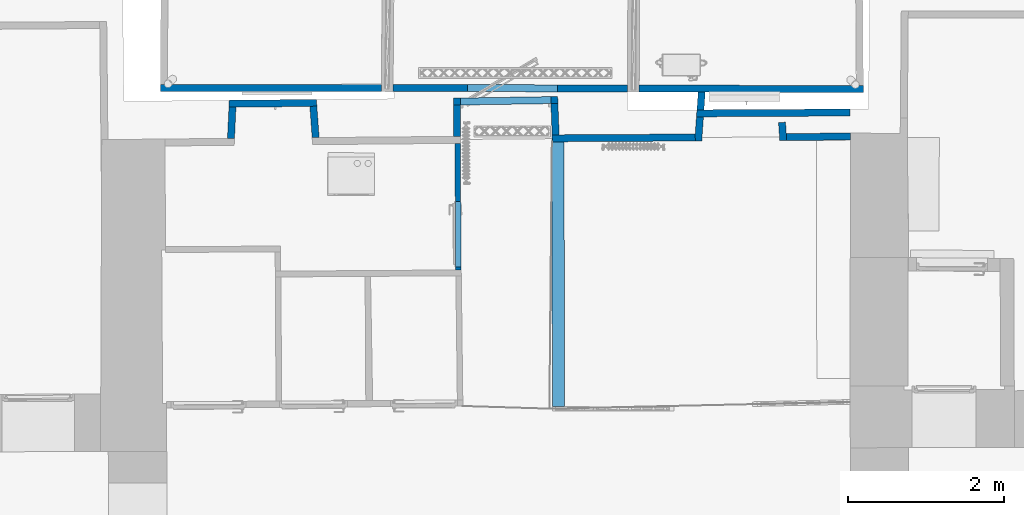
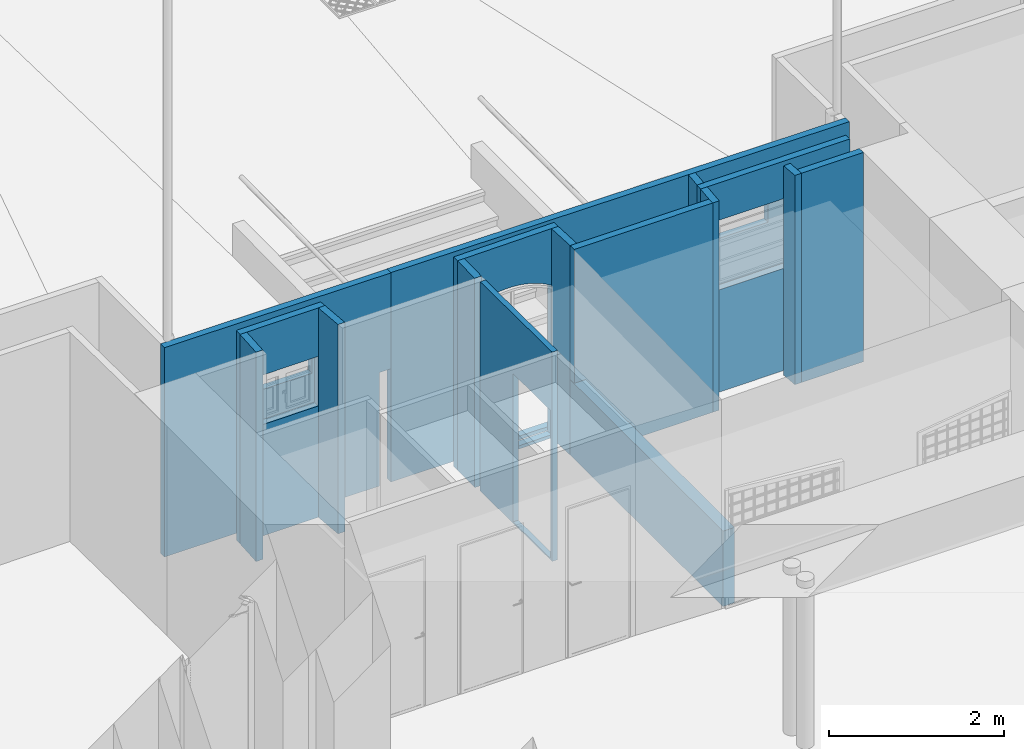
# One storey, part 27 of 133: 16 walls, 7 openings.
"""IFC2X3 building model written with IfcOpenShell, lengths in centimetres."""

from ifc_helpers import new_model, entity, si_unit, converted_unit, point, direction, frame, frame_2d, origin, origin_with_axes, place, context, subcontext, project, spatial, polyline, circle_curve, trimmed, segment, composite_curve, outline, extrude, clip, bounded_halfspace, shape, material, layer, layer_set, layer_usage, type_object, element, save


model = new_model("IFC2X3")

# Units and contexts
model_context = context("Model", 3, precision=0.0001, world=origin(), true_north=direction((0.225632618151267, 0.974212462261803, 0.0)))
body_context = subcontext(model_context, "Body", "Model", "MODEL_VIEW")
footprint_context = subcontext(model_context, "FootPrint", "Model", "MODEL_VIEW")
profile_context = subcontext(model_context, "Profile", "Model", "MODEL_VIEW")
ifc_project = project(units=[si_unit("LENGTHUNIT", "METRE", prefix="CENTI"), si_unit("AREAUNIT", "SQUARE_METRE", prefix="CENTI"), si_unit("VOLUMEUNIT", "CUBIC_METRE", prefix="CENTI"), converted_unit("PLANEANGLEUNIT", "DEGREE", entity("IfcRatioMeasure", 0.0174532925), si_unit("PLANEANGLEUNIT", "RADIAN"), dimensions=[0, 0, 0, 0, 0, 0, 0])], contexts=[model_context])

# Site, building, storey
site_placement = place(None, origin_with_axes())
site = spatial("IfcSite", under=ifc_project, at=site_placement, Name="Default Site", CompositionType="ELEMENT")
building_placement = place(site_placement, origin_with_axes())
building = spatial("IfcBuilding", under=site, at=building_placement, Name="Default Building", CompositionType="ELEMENT")
storey_placement = place(building_placement, frame((0.0, 0.0, -291.400371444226), z_axis=(0.0, 0.0, 1.0), x_axis=(1.0, 0.0, 0.0)))
storey = spatial("IfcBuildingStorey", under=building, at=storey_placement, Name="Rez-de-Jardin", CompositionType="ELEMENT", Elevation=-291.400371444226)

# Walls
ifc_material = material(Name="<aucun>")
ifc_layer_1 = layer(ifc_material, 9.0)
ifc_layer_set_1 = layer_set([ifc_layer_1], Name="default")
ifc_layer_usage_1 = layer_usage(ifc_layer_set_1, "AXIS2", "POSITIVE", -4.5)
wall_type_1 = type_object("IfcWallType", Name="default 90", PredefinedType="NOTDEFINED", material=ifc_layer_set_1)
wall_1_placement = place(storey_placement, frame((-151.626357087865, 550.284720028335, -1.94511073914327e-11), z_axis=(0.0, 0.0, 1.0), x_axis=(0.999982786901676, 0.00586735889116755, 0.0)))
element("IfcWallStandardCase", 1, at=wall_1_placement, inside=storey, type_object=wall_type_1, material=ifc_layer_usage_1, Name="Enveloppe 578381", context=body_context, shape_type="Clipping", body=[
    clip(extrude(outline(polyline([(-2.24265050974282e-12, 4.4999999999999), (0.292793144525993, -4.4999999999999), (183.440946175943, -4.50000000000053), (183.440946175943, 4.49999999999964), (-2.24265050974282e-12, 4.4999999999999)])), frame((0.0, 0.0, 8.88178419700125e-14), z_axis=(0.0, 0.0, 1.0), x_axis=(1.0, 0.0, 0.0)), (0.0, 0.0, 1.0), 291.413221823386), bounded_halfspace(frame((-2.24265050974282e-12, 4.4999999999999, 105.0), z_axis=(0.0, 0.0, 1.0), x_axis=(1.0, -3.41740524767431e-16, 0.0)), True, frame((-2.24265050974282e-12, 4.4999999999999, 105.0), z_axis=(0.0, 0.0, 1.0), x_axis=(1.0, 0.0, 0.0)), polyline([(2.22044604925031e-14, 0.0), (15.4076524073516, 0.0), (15.3647608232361, -8.99999999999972), (0.292793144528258, -8.99999999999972), (2.22044604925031e-14, 0.0)]))),
])
ifc_layer_usage_2 = layer_usage(ifc_layer_set_1, "AXIS2", "POSITIVE", -4.5)
wall_2_placement = place(storey_placement, frame((144.546257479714, 547.533862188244, -1.94511073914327e-11), z_axis=(0.0, 0.0, 1.0), x_axis=(-0.0634999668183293, 0.997981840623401, 0.0)))
element("IfcWallStandardCase", 2, at=wall_2_placement, inside=storey, type_object=wall_type_1, material=ifc_layer_usage_2, Name="Enveloppe 578498", context=body_context, shape_type="SweptSolid", body=[
    extrude(outline(polyline([(23.2636778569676, 4.49999999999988), (0.248369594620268, 4.50000000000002), (-0.271284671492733, -4.50000000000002), (23.2636778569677, -4.5000000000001), (23.2636778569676, 4.49999999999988)])), frame((0.0, 0.0, 1.33226762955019e-13), z_axis=(0.0, 0.0, 1.0), x_axis=(1.0, 0.0, 0.0)), (0.0, 0.0, 1.0), 291.413221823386),
])
ifc_layer_usage_3 = layer_usage(ifc_layer_set_1, "AXIS2", "POSITIVE", -4.5)
wall_3_placement = place(storey_placement, frame((38.1848745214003, 582.330023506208, -1.94511073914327e-11), z_axis=(0.0, 0.0, 1.0), x_axis=(0.0711630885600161, 0.997464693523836, 0.0)))
element("IfcWallStandardCase", 3, at=wall_3_placement, inside=storey, type_object=wall_type_1, material=ifc_layer_usage_3, Name="Enveloppe 578031", context=body_context, shape_type="SweptSolid", body=[
    extrude(outline(polyline([(4.16744102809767, 4.50000000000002), (4.85909695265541, -4.49999999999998), (27.4907387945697, -4.49999999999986), (26.8707012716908, 4.50000000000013), (4.16744102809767, 4.50000000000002)])), frame((0.0, 0.0, 8.88178419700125e-14), z_axis=(0.0, 0.0, 1.0), x_axis=(1.0, 0.0, 0.0)), (0.0, 0.0, 1.0), 291.413221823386),
])
ifc_layer_usage_4 = layer_usage(ifc_layer_set_1, "AXIS2", "POSITIVE", -4.5)
wall_4_placement = place(storey_placement, frame((140.027481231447, 551.995987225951, -1.94511073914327e-11), z_axis=(0.0, 0.0, 1.0), x_axis=(0.999982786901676, 0.00586735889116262, 0.0)))
element("IfcWallStandardCase", 4, at=wall_4_placement, inside=storey, type_object=wall_type_1, material=ifc_layer_usage_4, Name="Enveloppe 578761", context=body_context, shape_type="SweptSolid", body=[
    extrude(outline(polyline([(8.48101864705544, 4.4999999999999), (9.00067291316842, -4.50000000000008), (90.5975360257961, -4.49999999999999), (90.6597912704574, 4.49909174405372), (8.48101864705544, 4.4999999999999)])), frame((0.0, 0.0, 8.88178419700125e-14), z_axis=(0.0, 0.0, 1.0), x_axis=(1.0, 0.0, 0.0)), (0.0, 0.0, 1.0), 291.413221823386),
])
ifc_layer_usage_5 = layer_usage(ifc_layer_set_1, "AXIS2", "POSITIVE", -4.5)
wall_5_placement = place(storey_placement, frame((-147.156075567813, 554.957348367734, -1.94511073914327e-11), z_axis=(0.0, 0.0, 1.0), x_axis=(-0.0383790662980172, 0.999263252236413, 0.0)))
element("IfcWallStandardCase", 5, at=wall_5_placement, inside=storey, type_object=wall_type_1, material=ifc_layer_usage_5, Name="Enveloppe 581797", context=body_context, shape_type="Clipping", body=[
    clip(extrude(outline(polyline([(40.0143737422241, 4.49999999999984), (8.88178419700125e-14, 4.49999999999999), (-0.292793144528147, -4.50000000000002), (39.8111543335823, -4.50000000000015), (40.0143737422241, 4.49999999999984)])), frame((0.0, 0.0, 1.33226762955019e-13), z_axis=(0.0, 0.0, 1.0), x_axis=(1.0, 0.0, 0.0)), (0.0, 0.0, 1.0), 291.413221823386), bounded_halfspace(frame((8.88178419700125e-14, 4.50000000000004, 105.0), z_axis=(0.0, 0.0, 1.0), x_axis=(-1.87350135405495e-16, -1.0, 0.0)), True, frame((8.88178419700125e-14, 4.50000000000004, 105.0), z_axis=(0.0, 0.0, 1.0), x_axis=(1.0, 0.0, 0.0)), polyline([(-0.292793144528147, -9.00000000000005), (8.88178419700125e-14, 2.22044604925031e-14), (-8.88178419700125e-14, -9.00000000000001), (-0.292793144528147, -9.00000000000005)]))),
])
ifc_layer_usage_6 = layer_usage(ifc_layer_set_1, "AXIS2", "POSITIVE", -4.5)
wall_6_placement = place(storey_placement, frame((-454.111945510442, 542.507668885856, -1.94511073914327e-11), z_axis=(0.0, 0.0, 1.0), x_axis=(-0.0728153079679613, 0.997345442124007, 0.0)))
element("IfcWallStandardCase", 6, at=wall_6_placement, inside=storey, type_object=wall_type_1, material=ifc_layer_usage_6, Name="Enveloppe 579507", context=body_context, shape_type="SweptSolid", body=[
    extrude(outline(polyline([(49.0456146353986, 4.49999999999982), (9.01456586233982, 4.4999999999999), (8.43886085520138, -4.49999999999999), (49.0456146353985, -4.50000000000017), (49.0456146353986, 4.49999999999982)])), frame((0.0, 0.0, 1.77635683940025e-13), z_axis=(0.0, 0.0, 1.0), x_axis=(1.0, 0.0, 0.0)), (0.0, 0.0, 1.0), 291.413221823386),
])
ifc_layer_usage_7 = layer_usage(ifc_layer_set_1, "AXIS2", "POSITIVE", -4.5)
wall_7_placement = place(storey_placement, frame((35.680958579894, 547.233630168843, -1.94511073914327e-11), z_axis=(0.0, 0.0, 1.0), x_axis=(0.0711630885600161, 0.997464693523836, 0.0)))
element("IfcWallStandardCase", 7, at=wall_7_placement, inside=storey, type_object=wall_type_1, material=ifc_layer_usage_7, Name="Enveloppe 579019", context=body_context, shape_type="SweptSolid", body=[
    extrude(outline(polyline([(8.32820692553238, 4.50000000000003), (-0.64506293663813, 3.80687087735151), (-0.00340897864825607, -4.5), (31.018158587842, -4.49999999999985), (30.326502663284, 4.50000000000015), (8.32820692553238, 4.50000000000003)])), frame((0.0, 0.0, 8.88178419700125e-14), z_axis=(0.0, 0.0, 1.0), x_axis=(1.0, 0.0, 0.0)), (0.0, 0.0, 1.0), 291.413221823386),
])

# Wall, opening
ifc_layer_usage_8 = layer_usage(ifc_layer_set_1, "AXIS2", "POSITIVE", -4.5)
wall_8_placement = place(storey_placement, frame((-561.157868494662, 594.677740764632, -1.94511073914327e-11), z_axis=(0.0, 0.0, 1.0), x_axis=(0.99995701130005, 0.00927230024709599, 0.0)))
wall_8 = element("IfcWallStandardCase", 8, at=wall_8_placement, inside=storey, type_object=wall_type_1, material=ifc_layer_usage_8, Name="Enveloppe 579508", context=body_context, shape_type="SweptSolid", body=[
    extrude(outline(polyline([(-4.76066961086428, -4.50000000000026), (98.9491253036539, -4.49999999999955), (107.930924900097, -3.92791957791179), (107.394122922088, 4.50000000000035), (-4.25360330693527, 4.49999999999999), (-4.76066961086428, -4.50000000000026)])), frame((0.0, 0.0, 1.33226762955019e-13), z_axis=(0.0, 0.0, 1.0), x_axis=(1.0, 0.0, 0.0)), (0.0, 0.0, 1.0), 291.413221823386),
])
opening_1_placement = place(wall_8_placement, frame((5.01066961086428, 1.13686837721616e-13, 155.000000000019), z_axis=(0.0, 0.0, 1.0), x_axis=(-1.0, -4.15292800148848e-15, 0.0)))
cartesian_point_1 = entity("IfcCartesianPoint", [0.0, 0.0, 69.0])
cartesian_point_2 = entity("IfcCartesianPoint", [-94.0555910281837, -4.49999999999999])
element("IfcOpeningElement", 9, at=opening_1_placement, cuts=wall_8, Name="4294966466_11", ObjectType="Opening", shapes=[
    shape(body_context, "Body", "SweptSolid", [extrude(outline(polyline([(8.88178419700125e-14, 69.0), (8.88178419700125e-14, 0.0), (94.0555910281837, 0.0), (94.0555910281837, 69.0), (8.88178419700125e-14, 69.0)])), frame((0.0, -14.5, 0.0), z_axis=(0.0, 1.0, 0.0), x_axis=(-1.0, 0.0, 0.0)), (0.0, 0.0, 1.0), 29.0)]),
    shape(profile_context, "Profile", "GeometricCurveSet", [entity("IfcGeometricCurveSet", [entity("IfcPolyline", [cartesian_point_1, entity("IfcCartesianPoint", [0.0, 0.0, 0.0]), entity("IfcCartesianPoint", [-94.0555910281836, 0.0, 0.0]), entity("IfcCartesianPoint", [-94.0555910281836, 0.0, 69.0]), cartesian_point_1])])]),
    shape(footprint_context, "FootPrint", "GeometricCurveSet", [entity("IfcGeometricCurveSet", [entity("IfcPolyline", [cartesian_point_2, entity("IfcCartesianPoint", [-8.88178419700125e-14, -4.49999999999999]), entity("IfcCartesianPoint", [0.0, 4.49999999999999]), entity("IfcCartesianPoint", [-94.0555910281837, 4.49999999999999]), cartesian_point_2])])]),
])

# Walls
ifc_layer_usage_9 = layer_usage(ifc_layer_set_1, "AXIS2", "POSITIVE", -4.5)
wall_9_placement = place(storey_placement, frame((-273.817092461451, 552.792491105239, -1.94511073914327e-11), z_axis=(0.0, 0.0, 1.0), x_axis=(0.00967485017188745, 0.999953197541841, 0.0)))
element("IfcWallStandardCase", 10, at=wall_9_placement, inside=storey, type_object=wall_type_1, material=ifc_layer_usage_9, Name="Enveloppe 581669", context=body_context, shape_type="SweptSolid", body=[
    extrude(outline(polyline([(-0.0369662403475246, 4.49999999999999), (0.131124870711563, -4.49999999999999), (40.1921837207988, -4.50000000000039), (39.9627474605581, 4.49999999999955), (-0.0369662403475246, 4.49999999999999)])), frame((0.0, 0.0, 4.44089209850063e-14), z_axis=(0.0, 0.0, 1.0), x_axis=(1.0, 0.0, 0.0)), (0.0, 0.0, 1.0), 291.413221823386),
])
ifc_layer_usage_10 = layer_usage(ifc_layer_set_1, "AXIS2", "POSITIVE", -4.5)
wall_10_placement = place(storey_placement, frame((-563.660351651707, 541.482566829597, -1.94511073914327e-11), z_axis=(0.0, 0.0, 1.0), x_axis=(0.0469914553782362, 0.998895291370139, 0.0)))
element("IfcWallStandardCase", 11, at=wall_10_placement, inside=storey, type_object=wall_type_1, material=ifc_layer_usage_10, Name="Enveloppe 579958", context=body_context, shape_type="SweptSolid", body=[
    extrude(outline(polyline([(8.50953149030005, 4.49999999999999), (9.01413470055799, -4.49999999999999), (49.0004007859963, -4.49999999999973), (48.4933344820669, 4.50000000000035), (8.50953149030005, 4.49999999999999)])), frame((0.0, 0.0, 8.88178419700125e-14), z_axis=(0.0, 0.0, 1.0), x_axis=(1.0, 0.0, 0.0)), (0.0, 0.0, 1.0), 291.413221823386),
])

# Wall, opening
ifc_layer_usage_11 = layer_usage(ifc_layer_set_1, "AXIS2", "POSITIVE", -4.5)
wall_11_placement = place(storey_placement, frame((-277.102646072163, 597.310555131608, -1.94511073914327e-11), z_axis=(0.0, 0.0, 1.0), x_axis=(0.999874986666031, 0.015811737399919, 0.0)))
wall_11 = element("IfcWallStandardCase", 12, at=wall_11_placement, inside=storey, type_object=wall_type_1, material=ifc_layer_usage_11, Name="Enveloppe 76446", context=body_context, shape_type="SweptSolid", body=[
    extrude(outline(polyline([(-0.898867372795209, -4.49999999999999), (132.860796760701, -4.49999999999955), (132.65757735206, 4.50000000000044), (-0.669431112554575, 4.50000000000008), (-0.898867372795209, -4.49999999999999)])), frame((0.0, 0.0, 8.88178419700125e-14), z_axis=(0.0, 0.0, 1.0), x_axis=(1.0, 0.0, 0.0)), (0.0, 0.0, 1.0), 291.413221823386),
])
opening_2_placement = place(wall_11_placement, frame((8.10405665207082, -1.13686837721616e-13, 4.50000000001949), z_axis=(0.0, 0.0, 1.0), x_axis=(1.0, 2.93515212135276e-15, 0.0)))
cartesian_point_3 = entity("IfcCartesianPoint", [0.0, 0.0, 208.0])
cartesian_point_4 = entity("IfcCartesianPoint", [115.754446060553, 8.88178419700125e-14, 208.0])
cartesian_point_5 = entity("IfcCartesianPoint", [115.754446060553, 4.50000000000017])
element("IfcOpeningElement", 13, at=opening_2_placement, cuts=wall_11, Name="4294966320_12", ObjectType="Opening", shapes=[
    shape(body_context, "Body", "SweptSolid", [extrude(outline(composite_curve([segment(polyline([(-4.44089209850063e-14, 208.0), (-4.44089209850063e-14, 0.0), (115.754446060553, 0.0), (115.754446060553, 208.0)]), True, "CONTINUOUS"), segment(trimmed(circle_curve(frame_2d((57.8772230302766, 116.191417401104), x_axis=(1.0, 0.0)), 108.52920705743), [point((115.754446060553, 208.0))], [point((-4.44089209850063e-14, 208.0))], True, "CARTESIAN"), True, "CONTINUOUS")], self_intersect=False)), frame((0.0, 14.5, 0.0), z_axis=(0.0, -1.0, 0.0), x_axis=(1.0, 0.0, 0.0)), (0.0, 0.0, 1.0), 29.0)]),
    shape(profile_context, "Profile", "GeometricCurveSet", [entity("IfcGeometricCurveSet", [entity("IfcCompositeCurve", [entity("IfcCompositeCurveSegment", "CONTINUOUS", True, entity("IfcPolyline", [cartesian_point_3, entity("IfcCartesianPoint", [0.0, 0.0, 0.0]), entity("IfcCartesianPoint", [115.754446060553, 8.88178419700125e-14, 0.0]), cartesian_point_4])), entity("IfcCompositeCurveSegment", "CONTINUOUS", True, entity("IfcTrimmedCurve", entity("IfcCircle", entity("IfcAxis2Placement3D", entity("IfcCartesianPoint", [57.8772230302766, 8.88178419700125e-14, 116.191417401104]), entity("IfcDirection", [7.67295296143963e-16, -1.0, 2.65593675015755e-15]), entity("IfcDirection", [-1.0, -7.67295296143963e-16, 0.0])), 108.52920705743), [cartesian_point_4], [cartesian_point_3], True, "CARTESIAN"))], False)])]),
    shape(footprint_context, "FootPrint", "GeometricCurveSet", [entity("IfcGeometricCurveSet", [entity("IfcPolyline", [cartesian_point_5, entity("IfcCartesianPoint", [-4.44089209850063e-14, 4.49999999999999]), entity("IfcCartesianPoint", [-4.44089209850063e-14, -4.49999999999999]), entity("IfcCartesianPoint", [115.754446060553, -4.4999999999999]), cartesian_point_5])])]),
])

ifc_layer_usage_12 = layer_usage(ifc_layer_set_1, "AXIS2", "POSITIVE", -4.5)
wall_12_placement = place(storey_placement, frame((38.1848745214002, 582.330023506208, -1.94511073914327e-11), z_axis=(0.0, 0.0, 1.0), x_axis=(0.999985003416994, 0.00547658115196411, 0.0)))
wall_12 = element("IfcWallStandardCase", 14, at=wall_12_placement, inside=storey, type_object=wall_type_1, material=ifc_layer_usage_12, Name="Enveloppe 55077", context=body_context, shape_type="SweptSolid", body=[
    extrude(outline(polyline([(-4.85909695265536, -4.50000000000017), (192.283167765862, -4.50000000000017), (192.283167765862, 4.4999999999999), (-4.16744102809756, 4.50000000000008), (-4.85909695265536, -4.50000000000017)])), frame((0.0, 0.0, 1.33226762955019e-13), z_axis=(0.0, 0.0, 1.0), x_axis=(1.0, 0.0, 0.0)), (0.0, 0.0, 1.0), 291.413221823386),
])
opening_3_placement = place(wall_12_placement, frame((10.8625685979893, 1.13686837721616e-13, 142.337174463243), z_axis=(0.0, 0.0, 1.0), x_axis=(-1.0, 3.82506526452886e-16, 0.0)))
cartesian_point_6 = entity("IfcCartesianPoint", [1.11022302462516e-14, 0.0, 97.0])
cartesian_point_7 = entity("IfcCartesianPoint", [-111.462126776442, -4.49999999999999])
element("IfcOpeningElement", 15, at=opening_3_placement, cuts=wall_12, Name="4294966477_11", ObjectType="Opening", shapes=[
    shape(body_context, "Body", "SweptSolid", [extrude(outline(polyline([(-1.11022302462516e-14, 97.0), (-1.11022302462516e-14, 2.22044604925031e-14), (111.462126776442, 2.22044604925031e-14), (111.462126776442, 97.0), (-1.11022302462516e-14, 97.0)])), frame((0.0, -14.5, 0.0), z_axis=(0.0, 1.0, 0.0), x_axis=(-1.0, 0.0, 0.0)), (0.0, 0.0, 1.0), 29.0)]),
    shape(profile_context, "Profile", "GeometricCurveSet", [entity("IfcGeometricCurveSet", [entity("IfcPolyline", [cartesian_point_6, entity("IfcCartesianPoint", [1.11022302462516e-14, 0.0, 2.22044604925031e-14]), entity("IfcCartesianPoint", [-111.462126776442, 8.88178419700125e-14, 2.22044604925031e-14]), entity("IfcCartesianPoint", [-111.462126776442, 8.88178419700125e-14, 97.0]), cartesian_point_6])])]),
    shape(footprint_context, "FootPrint", "GeometricCurveSet", [entity("IfcGeometricCurveSet", [entity("IfcPolyline", [cartesian_point_7, entity("IfcCartesianPoint", [1.11022302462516e-14, -4.49999999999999]), entity("IfcCartesianPoint", [0.0, 4.49999999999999]), entity("IfcCartesianPoint", [-111.462126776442, 4.50000000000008]), cartesian_point_7])])]),
])

ifc_layer_2 = layer(ifc_material, 7.0)
ifc_layer_set_2 = layer_set([ifc_layer_2], Name="default")
ifc_layer_usage_13 = layer_usage(ifc_layer_set_2, "AXIS2", "POSITIVE", -3.5)
wall_type_2 = type_object("IfcWallType", Name="default 70", PredefinedType="NOTDEFINED", material=ifc_layer_set_2)
wall_13_placement = place(storey_placement, frame((-271.692132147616, 381.584849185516, -1.94511073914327e-11), z_axis=(0.0, 0.0, 1.0), x_axis=(-0.00656149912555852, 0.99997847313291, 0.0)))
wall_13 = element("IfcWallStandardCase", 16, at=wall_13_placement, inside=storey, type_object=wall_type_2, material=ifc_layer_usage_13, Name="Enveloppe 71801", context=body_context, shape_type="SweptSolid", body=[
    extrude(outline(polyline([(162.258852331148, 3.50000000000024), (8.74019915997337e-05, 3.50000000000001), (8.74019915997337e-05, -3.50000000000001), (162.275918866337, -3.49999999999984), (162.258852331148, 3.50000000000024)])), frame((0.0, 0.0, 8.88178419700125e-14), z_axis=(0.0, 0.0, 1.0), x_axis=(1.0, 0.0, 0.0)), (0.0, 0.0, 1.0), 291.413221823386),
])
opening_4_placement = place(wall_13_placement, frame((4.02307569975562, 0.0, 2.00000000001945), z_axis=(0.0, 0.0, 1.0), x_axis=(1.0, 1.08593689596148e-15, 0.0)))
cartesian_point_8 = entity("IfcCartesianPoint", [0.0, 0.0, 206.0])
cartesian_point_9 = entity("IfcCartesianPoint", [84.0000000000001, 3.50000000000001])
element("IfcOpeningElement", 17, at=opening_4_placement, cuts=wall_13, Name="4294966319_11", ObjectType="Opening", shapes=[
    shape(body_context, "Body", "SweptSolid", [extrude(outline(polyline([(0.0, 206.0), (0.0, 4.44089209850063e-14), (84.0000000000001, 4.44089209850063e-14), (84.0000000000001, 206.0), (0.0, 206.0)])), frame((0.0, 13.5, 0.0), z_axis=(0.0, -1.0, 0.0), x_axis=(1.0, 0.0, 0.0)), (0.0, 0.0, 1.0), 27.0)]),
    shape(profile_context, "Profile", "GeometricCurveSet", [entity("IfcGeometricCurveSet", [entity("IfcPolyline", [cartesian_point_8, entity("IfcCartesianPoint", [0.0, 0.0, 4.44089209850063e-14]), entity("IfcCartesianPoint", [84.0, 0.0, 4.44089209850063e-14]), entity("IfcCartesianPoint", [84.0, 0.0, 206.0]), cartesian_point_8])])]),
    shape(footprint_context, "FootPrint", "GeometricCurveSet", [entity("IfcGeometricCurveSet", [entity("IfcPolyline", [cartesian_point_9, entity("IfcCartesianPoint", [0.0, 3.50000000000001]), entity("IfcCartesianPoint", [0.0, -3.49999999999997]), entity("IfcCartesianPoint", [84.0, -3.50000000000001]), cartesian_point_9])])]),
])

# Wall
ifc_layer_3 = layer(ifc_material, 15.5)
ifc_layer_set_3 = layer_set([ifc_layer_3], Name="default")
ifc_layer_usage_14 = layer_usage(ifc_layer_set_3, "AXIS2", "POSITIVE", -7.75)
wall_type_3 = type_object("IfcWallType", Name="default 155", PredefinedType="NOTDEFINED", material=ifc_layer_set_3)
wall_14_placement = place(storey_placement, frame((-143.611740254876, 206.65109709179, -1.94511073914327e-11), z_axis=(0.0, 0.0, 1.0), x_axis=(-0.00110169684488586, 0.999999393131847, 0.0)))
element("IfcWallStandardCase", 18, at=wall_14_placement, inside=storey, type_object=wall_type_3, material=ifc_layer_usage_14, Name="Enveloppe 67656", context=body_context, shape_type="SweptSolid", body=[
    extrude(outline(polyline([(339.214812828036, 7.74927223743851), (4.44089209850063e-14, 7.74999999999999), (8.88178419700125e-14, -7.75000000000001), (348.21562087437, -7.75000000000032), (348.185106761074, -1.3471817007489), (348.47769639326, -1.33626691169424), (348.142192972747, 7.65747743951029), (339.214812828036, 7.74927223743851)])), frame((0.0, 0.0, 4.44089209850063e-14), z_axis=(0.0, 0.0, 1.0), x_axis=(1.0, 0.0, 0.0)), (0.0, 0.0, 1.0), 105.0),
])

# Wall, opening
ifc_layer_usage_15 = layer_usage(ifc_layer_set_1, "AXIS2", "POSITIVE", -4.5)
wall_type_4 = type_object("IfcWallType", Name="default 90", PredefinedType="NOTDEFINED", material=ifc_layer_set_1)
wall_15_placement = place(storey_placement, frame((-355.440714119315, 614.480019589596, -1.94511073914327e-11), z_axis=(0.0, 0.0, 1.0), x_axis=(-0.999999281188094, 0.00119900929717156, 0.0)))
wall_15 = element("IfcWallStandardCase", 19, at=wall_15_placement, inside=storey, type_object=wall_type_4, material=ifc_layer_usage_15, Name="Enveloppe 310077", context=body_context, shape_type="Clipping", body=[
    clip(extrude(outline(polyline([(298.07446258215, 4.49999813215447), (0.100000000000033, 4.49999999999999), (0.099999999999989, -4.49999999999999), (298.064265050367, -4.50000000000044), (298.07446258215, 4.49999813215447)])), frame((0.0, 0.0, 4.44089209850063e-14), z_axis=(0.0, 0.0, 1.0), x_axis=(1.0, 0.0, 0.0)), (0.0, 0.0, 1.0), 291.413221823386), bounded_halfspace(frame((0.099999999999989, -4.50000000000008, 157.900371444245), z_axis=(0.0, 0.0, 1.0), x_axis=(8.58774856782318e-15, 1.0, 0.0)), True, frame((0.099999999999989, -4.50000000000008, 157.900371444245), z_axis=(0.0, 0.0, 1.0), x_axis=(1.0, 0.0, 0.0)), polyline([(0.0, -8.88178419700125e-14), (4.44089209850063e-14, 8.99999999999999), (15.0095344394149, 8.9999999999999), (14.9496525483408, -8.88178419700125e-14), (0.0, -8.88178419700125e-14)]))),
])
opening_5_placement = place(wall_15_placement, frame((104.148639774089, -1.13686837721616e-13, 188.096410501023), z_axis=(0.0, 0.0, 1.0), x_axis=(1.0, -1.53371239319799e-15, 0.0)))
cartesian_point_10 = entity("IfcCartesianPoint", [-8.88178419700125e-14, 0.0, 72.7107917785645])
cartesian_point_11 = entity("IfcCartesianPoint", [89.5164647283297, 4.49999999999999])
element("IfcOpeningElement", 20, at=opening_5_placement, cuts=wall_15, Name="4294966547_11", ObjectType="Opening", shapes=[
    shape(body_context, "Body", "SweptSolid", [extrude(outline(polyline([(-8.88178419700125e-14, 72.7107917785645), (-8.88178419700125e-14, 2.22044604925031e-14), (89.5164647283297, 2.22044604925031e-14), (89.5164647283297, 72.7107917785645), (-8.88178419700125e-14, 72.7107917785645)])), frame((0.0, 14.5, 0.0), z_axis=(0.0, -1.0, 0.0), x_axis=(1.0, 0.0, 0.0)), (0.0, 0.0, 1.0), 29.0)]),
    shape(profile_context, "Profile", "GeometricCurveSet", [entity("IfcGeometricCurveSet", [entity("IfcPolyline", [cartesian_point_10, entity("IfcCartesianPoint", [-8.88178419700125e-14, 0.0, 2.22044604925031e-14]), entity("IfcCartesianPoint", [89.5164647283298, 0.0, 2.22044604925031e-14]), entity("IfcCartesianPoint", [89.5164647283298, 0.0, 72.7107917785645]), cartesian_point_10])])]),
    shape(footprint_context, "FootPrint", "GeometricCurveSet", [entity("IfcGeometricCurveSet", [entity("IfcPolyline", [cartesian_point_11, entity("IfcCartesianPoint", [-8.88178419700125e-14, 4.4999999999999]), entity("IfcCartesianPoint", [0.0, -4.49999999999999]), entity("IfcCartesianPoint", [89.5164647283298, -4.49999999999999]), cartesian_point_11])])]),
])

# Wall, openings
ifc_layer_usage_16 = layer_usage(ifc_layer_set_1, "AXIS2", "POSITIVE", -4.5)
wall_16_placement = place(storey_placement, frame((238.304739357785, 613.458486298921, -1.94511073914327e-11), z_axis=(0.0, 0.0, 1.0), x_axis=(-0.999997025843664, 0.00243891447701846, 0.0)))
wall_16 = element("IfcWallStandardCase", 21, at=wall_16_placement, inside=storey, type_object=wall_type_4, material=ifc_layer_usage_16, Name="Enveloppe 76265", context=body_context, shape_type="Clipping", body=[
    clip(clip(clip(clip(clip(extrude(outline(polyline([(593.801078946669, -4.07331212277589), (593.851758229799, -4.073188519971), (593.840599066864, 4.92680456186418), (593.740599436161, 4.92656067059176), (593.741128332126, 4.50000000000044), (285.696207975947, 4.50000000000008), (193.044511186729, 4.50000000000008), (-9.08858455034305, 4.50000000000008), (-9.00043170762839, -4.4999999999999), (193.044511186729, -4.49999999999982), (285.696207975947, -4.49999999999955), (593.79876921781, -4.4998853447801), (593.801078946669, -4.07331212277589)])), frame((0.0, 0.0, 1.33226762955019e-13), z_axis=(0.0, 0.0, 1.0), x_axis=(1.0, 0.0, 0.0)), (0.0, 0.0, 1.0), 291.413221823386), bounded_halfspace(frame((285.696207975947, 4.49999999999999, 157.900371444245), z_axis=(0.0, 0.0, 1.0), x_axis=(-6.89118900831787e-16, -1.0, 0.0)), True, frame((285.696207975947, 4.49999999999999, 157.900371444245), z_axis=(0.0, 0.0, 1.0), x_axis=(1.0, 0.0, 0.0)), polyline([(-7.39241761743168, -8.99999999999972), (-7.38787074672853, 0.0), (4.44089209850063e-14, -8.88178419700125e-14), (8.88178419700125e-14, -8.99999999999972), (-7.39241761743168, -8.99999999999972)]))), bounded_halfspace(frame((285.696207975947, -4.49999999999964, 157.900371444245), z_axis=(0.0, 0.0, 1.0), x_axis=(1.20563281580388e-16, 1.0, 0.0)), True, frame((285.696207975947, -4.49999999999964, 157.900371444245), z_axis=(0.0, 0.0, 1.0), x_axis=(1.0, 0.0, 0.0)), polyline([(8.88178419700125e-14, 0.0), (4.44089209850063e-14, 8.99999999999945), (7.61213116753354, 8.99999999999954), (7.60758429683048, 0.0), (8.88178419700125e-14, 0.0)]))), bounded_halfspace(frame((593.851758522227, -4.07330842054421, 157.900371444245), z_axis=(0.0, 0.0, 1.0), x_axis=(-0.999999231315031, -0.00123990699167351, 0.0)), True, frame((593.851758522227, -4.07330842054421, 157.900371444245), z_axis=(0.0, 0.0, 1.0), x_axis=(1.0, 0.0, 0.0)), polyline([(-0.050679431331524, -6.28378294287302e-05), (-0.00944426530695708, 7.61690844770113), (1.77635683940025e-13, -8.88178419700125e-14), (-0.050679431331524, -6.28378294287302e-05)]))), bounded_halfspace(frame((593.840599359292, 4.92668466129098, 157.900371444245), z_axis=(0.0, 0.0, 1.0), x_axis=(0.00123990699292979, -0.999999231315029, 0.0)), True, frame((593.840599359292, 4.92668466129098, 157.900371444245), z_axis=(0.0, 0.0, 1.0), x_axis=(1.0, 0.0, 0.0)), polyline([(-0.099471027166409, -0.426684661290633), (-0.0999999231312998, -0.000123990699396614), (1.77635683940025e-13, -8.88178419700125e-14), (0.000529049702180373, -0.426684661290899), (-0.099471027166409, -0.426684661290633)]))), bounded_halfspace(frame((593.801079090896, -4.07337125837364, 157.900371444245), z_axis=(0.0, 0.0, -1.0), x_axis=(-0.999999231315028, -0.00123990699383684, 0.0)), True, frame((593.801079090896, -4.07337125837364, 157.900371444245), z_axis=(0.0, 0.0, 1.0), x_axis=(1.0, 0.0, 0.0)), polyline([(-0.0493204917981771, -0.426628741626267), (-0.00230959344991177, -0.426628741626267), (1.77635683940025e-13, 0.0), (-0.0493204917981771, -6.11528699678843e-05), (-0.0493204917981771, -0.426628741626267)]))),
])
opening_6_placement = place(wall_16_placement, frame((382.768294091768, 2.27373675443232e-13, 5.03228404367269), z_axis=(0.0, 0.0, 1.0), x_axis=(1.0, 5.55111512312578e-16, 0.0)))
cartesian_point_12 = entity("IfcCartesianPoint", [0.0, 8.88178419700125e-14, 208.890292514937])
cartesian_point_13 = entity("IfcCartesianPoint", [115.531590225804, 8.88178419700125e-14, 208.890292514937])
cartesian_point_14 = entity("IfcCartesianPoint", [115.531590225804, 4.50000000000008])
element("IfcOpeningElement", 22, at=opening_6_placement, cuts=wall_16, Name="Baie 363236", ObjectType="Opening", shapes=[
    shape(body_context, "Body", "SweptSolid", [extrude(outline(composite_curve([segment(polyline([(0.0, 208.890292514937), (0.0, 4.44089209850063e-14), (115.531590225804, 4.44089209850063e-14), (115.531590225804, 208.890292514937)]), True, "CONTINUOUS"), segment(trimmed(circle_curve(frame_2d((57.7657951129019, 111.105164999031), x_axis=(1.0, 0.0)), 113.5729644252), [point((115.531590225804, 208.890292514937))], [point((0.0, 208.890292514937))], True, "CARTESIAN"), True, "CONTINUOUS")], self_intersect=False)), frame((0.0, 14.5, 0.0), z_axis=(0.0, -1.0, 0.0), x_axis=(1.0, 0.0, 0.0)), (0.0, 0.0, 1.0), 29.0)]),
    shape(profile_context, "Profile", "GeometricCurveSet", [entity("IfcGeometricCurveSet", [entity("IfcCompositeCurve", [entity("IfcCompositeCurveSegment", "CONTINUOUS", True, entity("IfcPolyline", [cartesian_point_12, entity("IfcCartesianPoint", [0.0, 8.88178419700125e-14, 4.44089209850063e-14]), entity("IfcCartesianPoint", [115.531590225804, 8.88178419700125e-14, 4.44089209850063e-14]), cartesian_point_13])), entity("IfcCompositeCurveSegment", "CONTINUOUS", True, entity("IfcTrimmedCurve", entity("IfcCircle", entity("IfcAxis2Placement3D", entity("IfcCartesianPoint", [57.7657951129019, 8.88178419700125e-14, 111.105164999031]), entity("IfcDirection", [0.0, -1.0, 0.0]), entity("IfcDirection", [-1.0, 0.0, 0.0])), 113.5729644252), [cartesian_point_13], [cartesian_point_12], True, "CARTESIAN"))], False)])]),
    shape(footprint_context, "FootPrint", "GeometricCurveSet", [entity("IfcGeometricCurveSet", [entity("IfcPolyline", [cartesian_point_14, entity("IfcCartesianPoint", [0.0, 4.50000000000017]), entity("IfcCartesianPoint", [-2.22044604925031e-14, -4.4999999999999]), entity("IfcCartesianPoint", [115.531590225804, -4.4999999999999]), cartesian_point_14])])]),
])
opening_7_placement = place(wall_16_placement, frame((98.1258290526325, 0.0, 188.80841267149), z_axis=(0.0, 0.0, 1.0), x_axis=(1.0, 4.2110412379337e-16, 0.0)))
cartesian_point_15 = entity("IfcCartesianPoint", [-2.22044604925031e-14, 0.0, 70.7252394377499])
cartesian_point_16 = entity("IfcCartesianPoint", [90.4607161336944, 4.50000000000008])
element("IfcOpeningElement", 23, at=opening_7_placement, cuts=wall_16, Name="4294966526_11", ObjectType="Opening", shapes=[
    shape(body_context, "Body", "SweptSolid", [extrude(outline(polyline([(-4.44089209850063e-14, 70.7252394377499), (-4.44089209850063e-14, 0.0), (90.4607161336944, 0.0), (90.4607161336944, 70.7252394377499), (-4.44089209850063e-14, 70.7252394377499)])), frame((0.0, 14.5, 0.0), z_axis=(0.0, -1.0, 0.0), x_axis=(1.0, 0.0, 0.0)), (0.0, 0.0, 1.0), 29.0)]),
    shape(profile_context, "Profile", "GeometricCurveSet", [entity("IfcGeometricCurveSet", [entity("IfcPolyline", [cartesian_point_15, entity("IfcCartesianPoint", [-2.22044604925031e-14, 0.0, 0.0]), entity("IfcCartesianPoint", [90.4607161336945, 0.0, 0.0]), entity("IfcCartesianPoint", [90.4607161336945, 0.0, 70.7252394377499]), cartesian_point_15])])]),
    shape(footprint_context, "FootPrint", "GeometricCurveSet", [entity("IfcGeometricCurveSet", [entity("IfcPolyline", [cartesian_point_16, entity("IfcCartesianPoint", [-4.44089209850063e-14, 4.49999999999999]), entity("IfcCartesianPoint", [-2.22044604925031e-14, -4.49999999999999]), entity("IfcCartesianPoint", [90.4607161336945, -4.50000000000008]), cartesian_point_16])])]),
])

save(model, "model.ifc")
